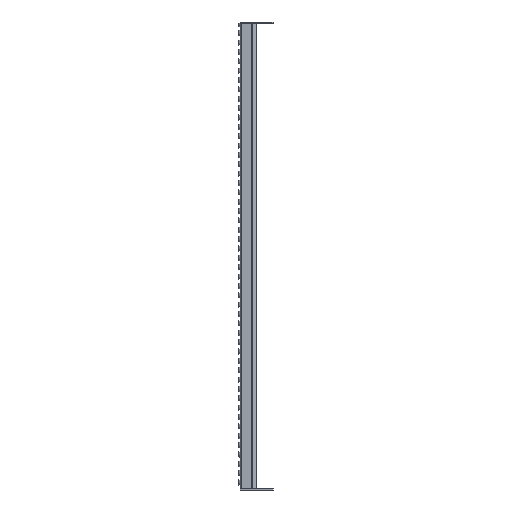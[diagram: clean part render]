
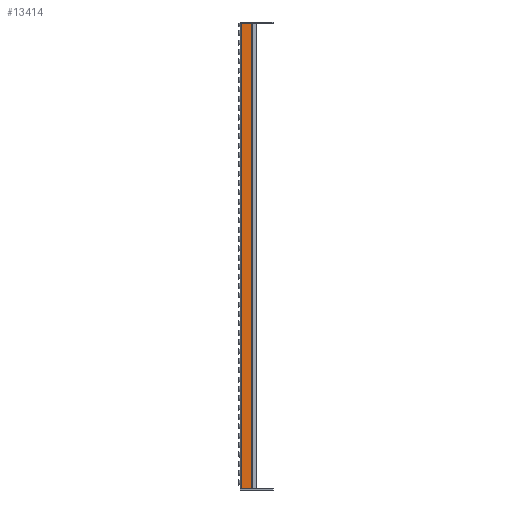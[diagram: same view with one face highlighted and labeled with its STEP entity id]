
A CAD part, left-side view. The second image highlights one B-rep face of the part: STEP entity #13414.
In plain terms, the highlighted planar face has unit normal (-1, 0, 0).
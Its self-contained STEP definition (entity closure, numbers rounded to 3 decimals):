
#2009=FACE_OUTER_BOUND('',#3108,.T.);
#3108=EDGE_LOOP('',(#11473,#11474,#11475,#11476));
#4071=LINE('',#25195,#5311);
#4082=LINE('',#25225,#5322);
#4092=LINE('',#25248,#5332);
#4099=LINE('',#25263,#5339);
#5311=VECTOR('',#17931,10.);
#5322=VECTOR('',#17956,10.);
#5332=VECTOR('',#17978,10.);
#5339=VECTOR('',#17997,10.);
#6684=VERTEX_POINT('',#25192);
#6685=VERTEX_POINT('',#25194);
#6697=VERTEX_POINT('',#25224);
#6704=VERTEX_POINT('',#25247);
#8305=EDGE_CURVE('',#6685,#6684,#4071,.T.);
#8320=EDGE_CURVE('',#6684,#6697,#4082,.T.);
#8332=EDGE_CURVE('',#6704,#6685,#4092,.T.);
#8340=EDGE_CURVE('',#6697,#6704,#4099,.T.);
#11473=ORIENTED_EDGE('',*,*,#8320,.T.);
#11474=ORIENTED_EDGE('',*,*,#8340,.T.);
#11475=ORIENTED_EDGE('',*,*,#8332,.T.);
#11476=ORIENTED_EDGE('',*,*,#8305,.T.);
#12533=PLANE('',#14811);
#13414=ADVANCED_FACE('',(#2009),#12533,.T.);
#14811=AXIS2_PLACEMENT_3D('',#25264,#17998,#17999);
#17931=DIRECTION('',(0.,1.,0.));
#17956=DIRECTION('',(0.,0.,-1.));
#17978=DIRECTION('',(0.,0.,1.));
#17997=DIRECTION('',(0.,-1.,0.));
#17998=DIRECTION('center_axis',(-1.,0.,0.));
#17999=DIRECTION('ref_axis',(0.,0.,1.));
#25192=CARTESIAN_POINT('',(0.,-3.25,994.));
#25194=CARTESIAN_POINT('',(0.,-24.427,994.));
#25195=CARTESIAN_POINT('',(0.,0.,994.));
#25224=CARTESIAN_POINT('',(0.,-3.25,0.));
#25225=CARTESIAN_POINT('',(0.,-3.25,0.));
#25247=CARTESIAN_POINT('',(0.,-24.427,0.));
#25248=CARTESIAN_POINT('',(0.,-24.427,248.5));
#25263=CARTESIAN_POINT('',(0.,0.,0.));
#25264=CARTESIAN_POINT('Origin',(0.,-25.,0.));
